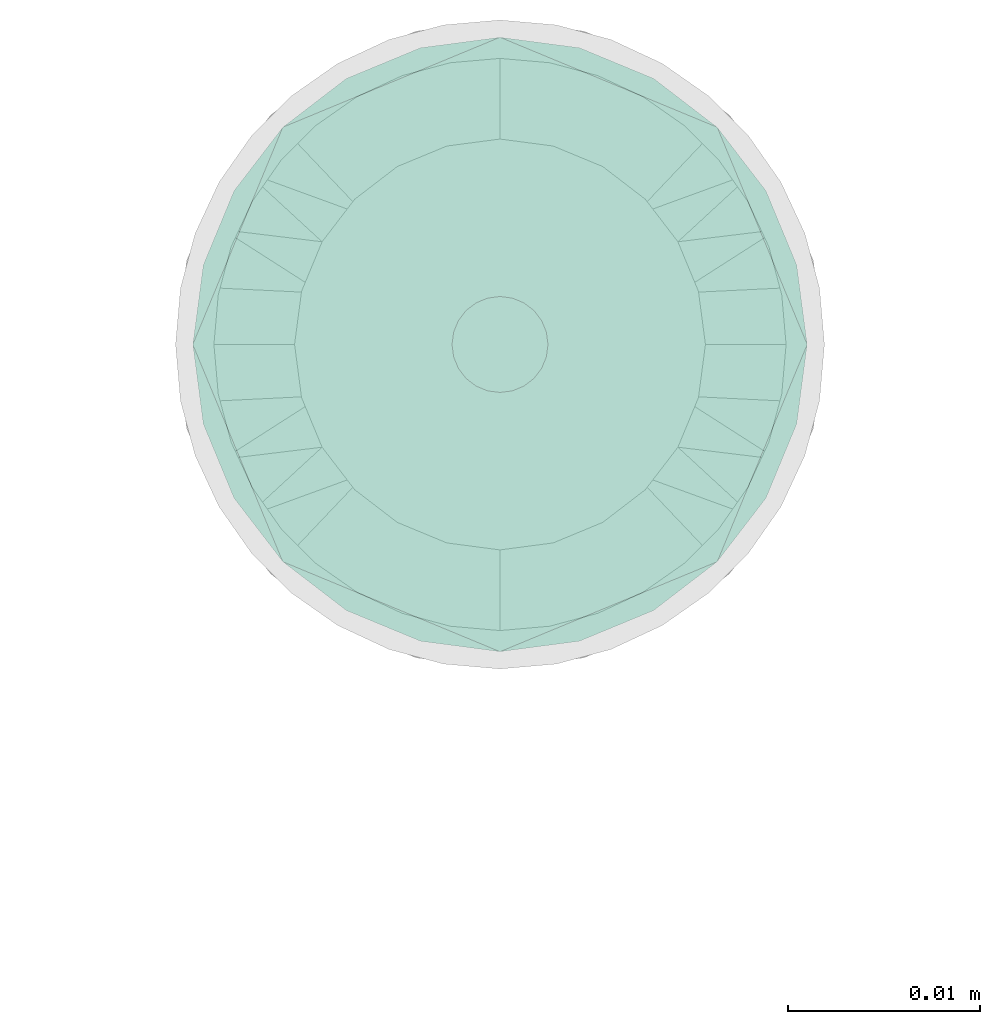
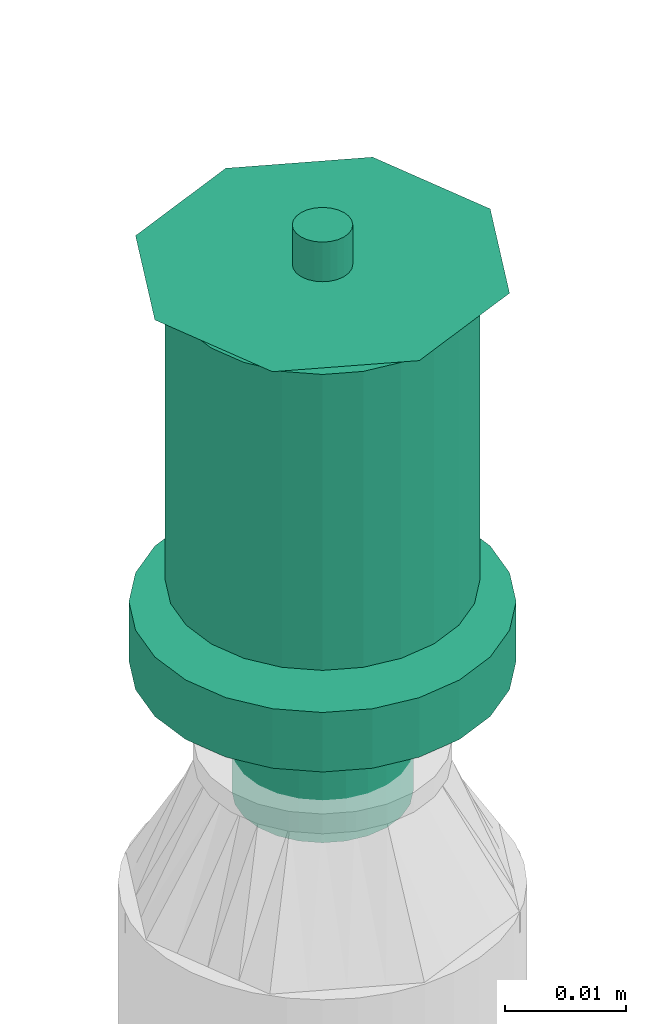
# One storey, part 32 of 44: 1 flow terminal.
"""IFC2X3 building model written with IfcOpenShell, lengths in millimetres."""

from ifc_helpers import new_model, entity, si_unit, converted_unit, derived_unit, direction, frame, origin_with_axes, place, context, subcontext, project, spatial, open_shell, surface_model, source, transform, mapped, type_object, element, save


model = new_model("IFC2X3")

# Units and contexts
model_context = context("Model", 3, precision=0.01, world=frame((0.0, 4.29681676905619e-09, 0.0)), true_north=direction((4.01073788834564e-13, 1.0)))
plan_context = context("Plan", 3, precision=0.01, world=frame((0.0, 4.29681676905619e-09, 0.0)), true_north=direction((4.01073788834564e-13, 1.0)))
body_context = subcontext(model_context, "Body", "Model", "MODEL_VIEW")
ifc_project = project(units=[converted_unit("PLANEANGLEUNIT", "DEGREE", entity("IfcPositiveLengthMeasure", 0.0174532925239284), si_unit("PLANEANGLEUNIT", "RADIAN"), dimensions=[0, 0, 0, 0, 0, 0, 0]), si_unit("AREAUNIT", "SQUARE_METRE"), si_unit("LENGTHUNIT", "METRE", prefix="MILLI"), si_unit("MASSUNIT", "GRAM", prefix="KILO"), si_unit("POWERUNIT", "WATT"), si_unit("PRESSUREUNIT", "PASCAL"), si_unit("FORCEUNIT", "NEWTON", prefix="KILO"), si_unit("ELECTRICVOLTAGEUNIT", "VOLT"), si_unit("ELECTRICCURRENTUNIT", "AMPERE"), si_unit("THERMODYNAMICTEMPERATUREUNIT", "DEGREE_CELSIUS"), si_unit("TIMEUNIT", "SECOND"), si_unit("VOLUMEUNIT", "CUBIC_METRE"), derived_unit("LINEARVELOCITYUNIT", [(si_unit("LENGTHUNIT", "METRE"), 1), (si_unit("TIMEUNIT", "SECOND"), -1)]), derived_unit("VOLUMETRICFLOWRATEUNIT", [(si_unit("VOLUMEUNIT", "CUBIC_METRE"), 1), (si_unit("TIMEUNIT", "SECOND"), -1)]), derived_unit("THERMALTRANSMITTANCEUNIT", [(si_unit("POWERUNIT", "WATT"), 1), (si_unit("THERMODYNAMICTEMPERATUREUNIT", "KELVIN"), -1), (si_unit("AREAUNIT", "SQUARE_METRE"), -1)]), derived_unit("SOUNDPRESSUREUNIT", [(si_unit("PRESSUREUNIT", "PASCAL"), 1)])], contexts=[model_context, plan_context])

# Site, building, storey
site_placement = place(None, frame((0.0, -4.29681676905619e-09, 0.0), z_axis=(0.0, 0.0, 1.0), x_axis=(1.0, 0.0, 0.0)))
site = spatial("IfcSite", under=ifc_project, at=site_placement, CompositionType="ELEMENT")
building_placement = place(site_placement, frame((0.0, 4.29681676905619e-09, 0.0), z_axis=(0.0, 0.0, 1.0), x_axis=(1.0, 0.0, 0.0)))
building = spatial("IfcBuilding", under=site, at=building_placement, Name="mc-building", CompositionType="ELEMENT")
storey_placement = place(building_placement, frame((0.0, 0.0, 207370.0), z_axis=(0.0, 0.0, 1.0), x_axis=(1.0, 0.0, 0.0)))
storey = spatial("IfcBuildingStorey", under=building, at=storey_placement, Name="Nivå E", CompositionType="ELEMENT", Elevation=207370.0)

# Flow terminal
fire_suppression_terminal_type = type_object("IfcFireSuppressionTerminalType", Name="68DGR-STD-STÅENDE", PredefinedType="NOTDEFINED")
shared_shape = source(origin_with_axes(), body_context, "Body", "SurfaceModel", [
    surface_model("IfcShellBasedSurfaceModel", [(3.36465, -12.55704, 51.0), (6.5, -11.25833, 51.0), (9.19239, -9.19239, 51.0), (12.55704, -3.36465, 51.0), (-11.25833, -6.5, 51.0), (11.25833, -6.5, 51.0), (-13.0, 0.0, 51.0), (0.0, -13.0, 51.0), (-6.5, -11.25833, 51.0), (-3.36465, -12.55704, 51.0), (-9.19239, -9.19239, 51.0), (-12.55704, -3.36465, 51.0), (13.0, 0.0, 51.0), (12.55704, 3.36465, 51.0), (11.25833, 6.5, 51.0), (9.19239, 9.19239, 51.0), (6.5, 11.25833, 51.0), (3.36465, 12.55704, 51.0), (0.0, 13.0, 51.0), (-3.36465, 12.55704, 51.0), (-12.55704, 3.36465, 51.0), (-9.19239, 9.19239, 51.0), (-11.25833, 6.5, 51.0), (-6.5, 11.25833, 51.0), (0.0, 13.0, 21.14766), (3.36465, 12.55704, 21.14766), (6.5, 11.25833, 21.14766), (-3.36465, 12.55704, 21.14766), (9.19239, 9.19239, 21.14766), (11.25833, 6.5, 21.14766), (12.55704, 3.36465, 21.14766), (-12.55704, 3.36465, 21.14766), (-11.25833, -6.5, 21.14766), (-9.19239, 9.19239, 21.14766), (-6.5, 11.25833, 21.14766), (-11.25833, 6.5, 21.14766), (-13.0, 0.0, 21.14766), (12.55704, -3.36465, 21.14766), (9.19239, -9.19239, 21.14766), (11.25833, -6.5, 21.14766), (6.5, -11.25833, 21.14766), (3.36465, -12.55704, 21.14766), (-6.5, -11.25833, 21.14766), (-9.19239, -9.19239, 21.14766), (-12.55704, -3.36465, 21.14766), (0.0, -13.0, 21.14766), (-3.36465, -12.55704, 21.14766), (13.0, 0.0, 21.14766), (7.24444, -1.94114, 0.1), (1.94114, -7.24444, 0.1), (3.75, -6.49519, 0.1), (5.3033, -5.3033, 0.1), (-5.3033, -5.3033, 0.1), (6.49519, -3.75, 0.1), (5.3033, 5.3033, 0.1), (0.0, -7.5, 0.1), (-3.75, -6.49519, 0.1), (-1.94114, -7.24444, 0.1), (-7.24444, -1.94114, 0.1), (-6.49519, -3.75, 0.1), (-7.24444, 1.94114, 0.1), (7.5, 0.0, 0.1), (6.49519, 3.75, 0.1), (-6.49519, 3.75, 0.1), (1.94114, 7.24444, 0.1), (0.0, 7.5, 0.1), (3.75, 6.49519, 0.1), (-7.5, 0.0, 0.1), (-5.3033, 5.3033, 0.1), (-1.94114, 7.24444, 0.1), (-3.75, 6.49519, 0.1), (7.24444, 1.94114, 0.1), (1.94114, 7.24444, -0.1), (-6.49519, 3.75, -0.1), (0.0, 7.5, -0.1), (5.3033, 5.3033, -0.1), (3.75, 6.49519, -0.1), (6.49519, 3.75, -0.1), (7.24444, 1.94114, -0.1), (-1.94114, 7.24444, -0.1), (-5.3033, 5.3033, -0.1), (-3.75, 6.49519, -0.1), (-7.24444, 1.94114, -0.1), (-7.24444, -1.94114, -0.1), (-7.5, 0.0, -0.1), (7.5, 0.0, -0.1), (7.24444, -1.94114, -0.1), (-5.3033, -5.3033, -0.1), (1.94114, -7.24444, -0.1), (6.49519, -3.75, -0.1), (5.3033, -5.3033, -0.1), (3.75, -6.49519, -0.1), (-6.49519, -3.75, -0.1), (-3.75, -6.49519, -0.1), (0.0, -7.5, -0.1), (-1.94114, -7.24444, -0.1), (0.0, -2.5, 51.0), (-2.5, 0.0, 51.0), (0.0, 2.5, 51.0), (2.5, 0.0, 51.0), (0.0, -16.0, 53.0), (11.31371, -11.31371, 53.0), (-11.31371, -11.31371, 53.0), (-16.0, 0.0, 53.0), (16.0, 0.0, 53.0), (11.31371, 11.31371, 53.0), (0.0, 16.0, 53.0), (-11.31371, 11.31371, 53.0), (1.25, -2.16506, 57.0), (0.0, -2.5, 57.0), (0.64705, -2.41481, 57.0), (2.41481, -0.64705, 57.0), (1.76777, -1.76777, 57.0), (-2.41481, -0.64705, 57.0), (-2.5, 0.0, 57.0), (2.16506, -1.25, 57.0), (-1.25, -2.16506, 57.0), (-0.64705, -2.41481, 57.0), (-1.76777, -1.76777, 57.0), (-2.16506, -1.25, 57.0), (2.5, 0.0, 57.0), (2.41481, 0.64705, 57.0), (2.16506, 1.25, 57.0), (1.76777, 1.76777, 57.0), (0.64705, 2.41481, 57.0), (1.25, 2.16506, 57.0), (-1.76777, 1.76777, 57.0), (0.0, 2.5, 57.0), (-2.16506, 1.25, 57.0), (-2.41481, 0.64705, 57.0), (-0.64705, 2.41481, 57.0), (-1.25, 2.16506, 57.0), (1.25, 2.16506, 51.0), (1.76777, 1.76777, 51.0), (1.15, 1.99186, 51.0), (0.59528, 2.22163, 51.0), (0.64705, 2.41481, 51.0), (0.0, 2.3, 51.0), (1.62635, 1.62635, 51.0), (2.41481, 0.64705, 51.0), (2.3, 0.0, 51.0), (2.22163, 0.59528, 51.0), (2.16506, 1.25, 51.0), (1.99186, 1.15, 51.0), (-0.59528, 2.22163, 51.0), (-0.64705, 2.41481, 51.0), (-1.15, 1.99186, 51.0), (-1.76777, 1.76777, 51.0), (-1.25, 2.16506, 51.0), (-1.62635, 1.62635, 51.0), (-1.99186, 1.15, 51.0), (-2.16506, 1.25, 51.0), (-2.22163, 0.59528, 51.0), (-2.41481, 0.64705, 51.0), (-2.3, 0.0, 51.0), (2.41481, -0.64705, 51.0), (2.22163, -0.59528, 51.0), (1.99186, -1.15, 51.0), (2.16506, -1.25, 51.0), (1.62635, -1.62635, 51.0), (1.76777, -1.76777, 51.0), (1.25, -2.16506, 51.0), (1.15, -1.99186, 51.0), (0.59528, -2.22163, 51.0), (0.64705, -2.41481, 51.0), (0.0, -2.3, 51.0), (-2.16506, -1.25, 51.0), (-1.99186, -1.15, 51.0), (-1.76777, -1.76777, 51.0), (-1.62635, -1.62635, 51.0), (-2.41481, -0.64705, 51.0), (-2.22163, -0.59528, 51.0), (-0.59528, -2.22163, 51.0), (-0.64705, -2.41481, 51.0), (-1.15, -1.99186, 51.0), (-1.25, -2.16506, 51.0), (1.62635, -1.62635, 56.8), (1.15, -1.99186, 56.8), (0.59528, -2.22163, 56.8), (0.0, -2.3, 56.8), (2.22163, 0.59528, 56.8), (1.99186, -1.15, 56.8), (2.22163, -0.59528, 56.8), (-0.59528, -2.22163, 56.8), (-1.15, -1.99186, 56.8), (-1.62635, -1.62635, 56.8), (-1.99186, -1.15, 56.8), (-2.22163, -0.59528, 56.8), (-1.99186, 1.15, 56.8), (2.3, 0.0, 56.8), (1.62635, 1.62635, 56.8), (1.99186, 1.15, 56.8), (1.15, 1.99186, 56.8), (0.0, 2.3, 56.8), (0.59528, 2.22163, 56.8), (-2.22163, 0.59528, 56.8), (-2.3, 0.0, 56.8), (-1.15, 1.99186, 56.8), (-0.59528, 2.22163, 56.8), (-1.62635, 1.62635, 56.8), (4.1411, -15.45481, 19.0), (8.0, -13.85641, 19.0), (11.31371, -11.31371, 19.0), (-8.0, -13.85641, 19.0), (15.45481, -4.1411, 19.0), (16.0, 0.0, 19.0), (13.85641, -8.0, 19.0), (0.0, -16.0, 19.0), (-4.1411, -15.45481, 19.0), (-13.85641, -8.0, 19.0), (-11.31371, -11.31371, 19.0), (-15.45481, -4.1411, 19.0), (15.45481, 4.1411, 19.0), (13.85641, 8.0, 19.0), (11.31371, 11.31371, 19.0), (-4.1411, 15.45481, 19.0), (8.0, 13.85641, 19.0), (4.1411, 15.45481, 19.0), (0.0, 16.0, 19.0), (-13.85641, 8.0, 19.0), (-15.45481, 4.1411, 19.0), (-16.0, 0.0, 19.0), (-11.31371, 11.31371, 19.0), (-8.0, 13.85641, 19.0), (0.0, 16.0, 13.0), (4.1411, 15.45481, 13.0), (8.0, 13.85641, 13.0), (-4.1411, 15.45481, 13.0), (11.31371, 11.31371, 13.0), (13.85641, 8.0, 13.0), (15.45481, 4.1411, 13.0), (-15.45481, -4.1411, 13.0), (-11.31371, 11.31371, 13.0), (-8.0, 13.85641, 13.0), (-13.85641, 8.0, 13.0), (-15.45481, 4.1411, 13.0), (-16.0, 0.0, 13.0), (4.1411, -15.45481, 13.0), (16.0, 0.0, 13.0), (15.45481, -4.1411, 13.0), (13.85641, -8.0, 13.0), (11.31371, -11.31371, 13.0), (8.0, -13.85641, 13.0), (-8.0, -13.85641, 13.0), (-13.85641, -8.0, 13.0), (-11.31371, -11.31371, 13.0), (0.0, -16.0, 13.0), (-4.1411, -15.45481, 13.0), (7.24444, -1.94114, 13.0), (1.94114, -7.24444, 13.0), (3.75, -6.49519, 13.0), (5.3033, -5.3033, 13.0), (-5.3033, -5.3033, 13.0), (6.49519, -3.75, 13.0), (5.3033, 5.3033, 13.0), (0.0, -7.5, 13.0), (-3.75, -6.49519, 13.0), (-1.94114, -7.24444, 13.0), (-7.24444, -1.94114, 13.0), (-6.49519, -3.75, 13.0), (-7.24444, 1.94114, 13.0), (7.5, 0.0, 13.0), (6.49519, 3.75, 13.0), (-6.49519, 3.75, 13.0), (1.94114, 7.24444, 13.0), (0.0, 7.5, 13.0), (3.75, 6.49519, 13.0), (-7.5, 0.0, 13.0), (-5.3033, 5.3033, 13.0), (-1.94114, 7.24444, 13.0), (-3.75, 6.49519, 13.0), (7.24444, 1.94114, 13.0), (3.75, 6.49519, 0.0), (5.3033, 5.3033, 0.0), (3.65, 6.32199, 0.0), (1.88938, 7.05126, 0.0), (0.0, 7.3, 0.0), (1.94114, 7.24444, 0.0), (0.0, 7.5, 0.0), (5.16188, 5.16188, 0.0), (7.24444, 1.94114, 0.0), (7.3, 0.0, 0.0), (7.05126, 1.88938, 0.0), (7.5, 0.0, 0.0), (6.49519, 3.75, 0.0), (6.32199, 3.65, 0.0), (-1.88938, 7.05126, 0.0), (-1.94114, 7.24444, 0.0), (-3.65, 6.32199, 0.0), (-5.3033, 5.3033, 0.0), (-3.75, 6.49519, 0.0), (-5.16188, 5.16188, 0.0), (-6.32199, 3.65, 0.0), (-6.49519, 3.75, 0.0), (-7.05126, 1.88938, 0.0), (-7.24444, 1.94114, 0.0), (-7.3, 0.0, 0.0), (-7.5, 0.0, 0.0), (7.24444, -1.94114, 0.0), (7.05126, -1.88938, 0.0), (6.32199, -3.65, 0.0), (6.49519, -3.75, 0.0), (5.16188, -5.16188, 0.0), (5.3033, -5.3033, 0.0), (3.75, -6.49519, 0.0), (3.65, -6.32199, 0.0), (1.88938, -7.05126, 0.0), (1.94114, -7.24444, 0.0), (0.0, -7.3, 0.0), (0.0, -7.5, 0.0), (-6.49519, -3.75, 0.0), (-6.32199, -3.65, 0.0), (-5.3033, -5.3033, 0.0), (-5.16188, -5.16188, 0.0), (-7.24444, -1.94114, 0.0), (-7.05126, -1.88938, 0.0), (-1.88938, -7.05126, 0.0), (-1.94114, -7.24444, 0.0), (-3.65, -6.32199, 0.0), (-3.75, -6.49519, 0.0), (1.88938, -7.05126, 12.8), (0.0, -7.3, 12.8), (3.65, -6.32199, 12.8), (5.16188, -5.16188, 12.8), (6.32199, -3.65, 12.8), (7.05126, 1.88938, 12.8), (7.05126, -1.88938, 12.8), (-5.16188, -5.16188, 12.8), (-1.88938, -7.05126, 12.8), (-3.65, -6.32199, 12.8), (-6.32199, -3.65, 12.8), (-7.05126, -1.88938, 12.8), (0.0, 7.3, 12.8), (7.3, 0.0, 12.8), (6.32199, 3.65, 12.8), (5.16188, 5.16188, 12.8), (3.65, 6.32199, 12.8), (1.88938, 7.05126, 12.8), (-6.32199, 3.65, 12.8), (-7.05126, 1.88938, 12.8), (-7.3, 0.0, 12.8), (-3.65, 6.32199, 12.8), (-1.88938, 7.05126, 12.8), (-5.16188, 5.16188, 12.8)], [open_shell([[[0, 1, 2]], [[0, 2, 3]], [[0, 3, 4]], [[3, 2, 5]], [[6, 4, 3]], [[7, 8, 9]], [[7, 0, 8]], [[8, 4, 10]], [[0, 4, 8]], [[4, 6, 11]], [[6, 3, 12]], [[13, 14, 15]], [[6, 13, 15]], [[16, 17, 18]], [[15, 16, 19]], [[18, 19, 16]], [[20, 21, 22]], [[20, 6, 15]], [[21, 19, 23]], [[19, 21, 20]], [[15, 19, 20]], [[13, 6, 12]], [[24, 25, 26]], [[27, 24, 26]], [[28, 29, 30]], [[26, 28, 31]], [[28, 32, 31]], [[27, 33, 34]], [[33, 27, 31]], [[33, 31, 35]], [[27, 26, 31]], [[31, 32, 36]], [[32, 28, 30]], [[32, 30, 37]], [[38, 37, 39]], [[38, 40, 41]], [[38, 41, 37]], [[32, 37, 41]], [[32, 42, 43]], [[44, 36, 32]], [[42, 45, 46]], [[42, 32, 41]], [[45, 42, 41]], [[30, 47, 37]], [[4, 32, 43]], [[8, 42, 46]], [[43, 42, 10]], [[9, 46, 45]], [[36, 11, 6]], [[11, 36, 44]], [[11, 44, 4]], [[44, 32, 4]], [[43, 10, 4]], [[8, 10, 42]], [[46, 9, 8]], [[45, 7, 9]], [[0, 41, 40]], [[38, 1, 40]], [[5, 39, 37]], [[38, 39, 2]], [[3, 37, 47]], [[41, 0, 7]], [[40, 1, 0]], [[38, 2, 1]], [[39, 5, 2]], [[3, 5, 37]], [[47, 12, 3]], [[41, 7, 45]], [[30, 13, 47]], [[29, 14, 30]], [[25, 24, 17]], [[15, 29, 28]], [[30, 14, 13]], [[13, 12, 47]], [[16, 26, 17]], [[16, 15, 28]], [[26, 25, 17]], [[15, 14, 29]], [[28, 26, 16]], [[24, 18, 17]], [[19, 27, 34]], [[33, 23, 34]], [[22, 35, 31]], [[33, 35, 21]], [[20, 31, 36]], [[27, 19, 18]], [[34, 23, 19]], [[33, 21, 23]], [[35, 22, 21]], [[20, 22, 31]], [[36, 6, 20]], [[27, 18, 24]], [[48, 49, 50]], [[48, 50, 51]], [[49, 48, 52]], [[48, 51, 53]], [[54, 52, 48]], [[55, 56, 57]], [[56, 55, 52]], [[52, 58, 59]], [[52, 55, 49]], [[52, 60, 58]], [[54, 48, 61]], [[62, 54, 61]], [[54, 63, 52]], [[64, 65, 54]], [[64, 54, 66]], [[63, 54, 65]], [[63, 60, 52]], [[67, 58, 60]], [[68, 69, 70]], [[69, 68, 63]], [[69, 63, 65]], [[71, 62, 61]], [[72, 73, 74]], [[75, 72, 76]], [[75, 77, 78]], [[72, 75, 73]], [[78, 73, 75]], [[79, 80, 81]], [[80, 79, 73]], [[74, 73, 79]], [[78, 82, 73]], [[82, 83, 84]], [[82, 78, 85]], [[86, 87, 85]], [[88, 86, 89]], [[90, 91, 88]], [[90, 88, 89]], [[87, 86, 88]], [[83, 87, 92]], [[83, 85, 87]], [[93, 94, 95]], [[94, 93, 87]], [[88, 94, 87]], [[85, 83, 82]], [[83, 58, 84]], [[92, 59, 83]], [[56, 87, 93]], [[92, 87, 52]], [[57, 93, 95]], [[83, 59, 58]], [[58, 67, 84]], [[57, 56, 93]], [[52, 87, 56]], [[52, 59, 92]], [[55, 57, 95]], [[95, 94, 55]], [[88, 49, 94]], [[91, 50, 88]], [[53, 90, 89]], [[91, 90, 51]], [[48, 89, 86]], [[91, 51, 50]], [[50, 49, 88]], [[61, 48, 86]], [[53, 89, 48]], [[53, 51, 90]], [[85, 61, 86]], [[94, 49, 55]], [[78, 71, 85]], [[77, 62, 78]], [[66, 75, 76]], [[77, 75, 54]], [[64, 76, 72]], [[78, 62, 71]], [[71, 61, 85]], [[64, 66, 76]], [[54, 75, 66]], [[54, 62, 77]], [[65, 64, 72]], [[72, 74, 65]], [[79, 69, 74]], [[81, 70, 79]], [[63, 80, 73]], [[81, 80, 68]], [[60, 73, 82]], [[81, 68, 70]], [[70, 69, 79]], [[67, 60, 82]], [[63, 73, 60]], [[63, 68, 80]], [[84, 67, 82]], [[74, 69, 65]], [[96, 97, 98]], [[98, 99, 96]], [[100, 101, 102]], [[103, 102, 101]], [[101, 104, 103]], [[104, 105, 106]], [[107, 103, 106]], [[106, 103, 104]], [[99, 98, 105]], [[105, 104, 99]], [[98, 106, 105]], [[98, 107, 106]], [[107, 98, 97]], [[103, 107, 97]], [[97, 96, 102]], [[102, 103, 97]], [[96, 100, 102]], [[96, 101, 100]], [[101, 96, 99]], [[104, 101, 99]], [[108, 109, 110]], [[111, 108, 112]], [[113, 108, 114]], [[111, 112, 115]], [[108, 111, 114]], [[109, 116, 117]], [[116, 109, 118]], [[118, 113, 119]], [[118, 109, 108]], [[108, 113, 118]], [[111, 120, 114]], [[121, 122, 123]], [[114, 121, 123]], [[114, 123, 124]], [[124, 123, 125]], [[126, 124, 127]], [[124, 128, 129]], [[129, 114, 124]], [[126, 130, 131]], [[128, 124, 126]], [[130, 126, 127]], [[121, 114, 120]], [[132, 133, 134]], [[132, 134, 135]], [[136, 135, 137]], [[135, 136, 132]], [[136, 137, 98]], [[134, 133, 138]], [[139, 140, 141]], [[140, 139, 99]], [[139, 141, 142]], [[138, 142, 143]], [[142, 138, 133]], [[143, 142, 141]], [[98, 144, 145]], [[98, 137, 144]], [[145, 144, 146]], [[147, 148, 149]], [[146, 148, 145]], [[149, 148, 146]], [[150, 151, 147]], [[151, 150, 152]], [[150, 147, 149]], [[153, 152, 154]], [[152, 153, 151]], [[153, 154, 97]], [[99, 155, 156]], [[156, 155, 157]], [[157, 158, 159]], [[158, 157, 155]], [[159, 158, 160]], [[160, 161, 162]], [[162, 161, 163]], [[163, 164, 165]], [[164, 163, 161]], [[165, 164, 96]], [[162, 159, 160]], [[166, 167, 168]], [[168, 167, 169]], [[167, 166, 170]], [[97, 171, 170]], [[170, 171, 167]], [[97, 154, 171]], [[172, 96, 173]], [[172, 173, 174]], [[169, 175, 168]], [[175, 169, 174]], [[175, 174, 173]], [[165, 96, 172]], [[156, 140, 99]], [[170, 113, 97]], [[166, 119, 170]], [[116, 168, 175]], [[166, 168, 118]], [[117, 175, 173]], [[170, 119, 113]], [[113, 114, 97]], [[117, 116, 175]], [[118, 168, 116]], [[118, 119, 166]], [[109, 117, 173]], [[173, 96, 109]], [[164, 110, 96]], [[161, 108, 164]], [[115, 160, 158]], [[161, 160, 112]], [[111, 158, 155]], [[161, 112, 108]], [[108, 110, 164]], [[120, 111, 155]], [[115, 158, 111]], [[115, 112, 160]], [[99, 120, 155]], [[96, 110, 109]], [[139, 121, 99]], [[142, 122, 139]], [[125, 133, 132]], [[142, 133, 123]], [[124, 132, 136]], [[139, 122, 121]], [[121, 120, 99]], [[124, 125, 132]], [[123, 133, 125]], [[123, 122, 142]], [[127, 124, 136]], [[136, 98, 127]], [[145, 130, 98]], [[148, 131, 145]], [[128, 147, 151]], [[148, 147, 126]], [[129, 151, 153]], [[148, 126, 131]], [[131, 130, 145]], [[114, 129, 153]], [[128, 151, 129]], [[128, 126, 147]], [[97, 114, 153]], [[98, 130, 127]], [[176, 177, 178]], [[176, 178, 179]], [[180, 176, 179]], [[181, 176, 182]], [[180, 182, 176]], [[183, 184, 179]], [[185, 179, 184]], [[186, 187, 185]], [[185, 187, 188]], [[179, 185, 188]], [[189, 182, 180]], [[190, 191, 180]], [[192, 190, 180]], [[193, 194, 192]], [[180, 193, 192]], [[188, 193, 180]], [[195, 188, 196]], [[196, 188, 187]], [[197, 198, 199]], [[188, 199, 198]], [[188, 198, 193]], [[180, 179, 188]], [[154, 187, 171]], [[171, 186, 167]], [[174, 169, 184]], [[185, 169, 167]], [[172, 174, 183]], [[187, 186, 171]], [[154, 196, 187]], [[174, 184, 183]], [[184, 169, 185]], [[167, 186, 185]], [[172, 183, 179]], [[179, 165, 172]], [[165, 178, 163]], [[163, 177, 162]], [[157, 159, 181]], [[176, 159, 162]], [[156, 157, 182]], [[177, 176, 162]], [[163, 178, 177]], [[156, 182, 189]], [[182, 157, 181]], [[159, 176, 181]], [[156, 189, 140]], [[179, 178, 165]], [[140, 180, 141]], [[141, 191, 143]], [[134, 138, 192]], [[190, 138, 143]], [[135, 134, 194]], [[180, 191, 141]], [[140, 189, 180]], [[134, 192, 194]], [[192, 138, 190]], [[143, 191, 190]], [[135, 194, 193]], [[193, 137, 135]], [[137, 198, 144]], [[144, 197, 146]], [[150, 149, 188]], [[199, 149, 146]], [[152, 150, 195]], [[197, 199, 146]], [[144, 198, 197]], [[152, 195, 196]], [[195, 150, 188]], [[149, 199, 188]], [[152, 196, 154]], [[193, 198, 137]], [[200, 201, 202]], [[203, 200, 202]], [[204, 205, 202]], [[204, 202, 206]], [[203, 202, 205]], [[207, 203, 208]], [[207, 200, 203]], [[203, 209, 210]], [[209, 203, 211]], [[205, 211, 203]], [[205, 212, 211]], [[212, 213, 214]], [[215, 212, 214]], [[216, 217, 218]], [[214, 216, 215]], [[218, 215, 216]], [[211, 219, 220]], [[221, 211, 220]], [[222, 215, 223]], [[215, 222, 219]], [[219, 211, 215]], [[211, 212, 215]], [[224, 225, 226]], [[227, 224, 226]], [[228, 229, 230]], [[227, 226, 228]], [[227, 228, 231]], [[227, 232, 233]], [[232, 227, 234]], [[234, 231, 235]], [[231, 234, 227]], [[235, 231, 236]], [[228, 230, 231]], [[237, 238, 239]], [[237, 239, 240]], [[241, 242, 237]], [[241, 237, 240]], [[238, 237, 243]], [[244, 243, 245]], [[243, 244, 231]], [[243, 246, 247]], [[243, 231, 238]], [[237, 246, 243]], [[238, 231, 230]], [[231, 211, 236]], [[244, 209, 231]], [[203, 245, 243]], [[244, 245, 210]], [[208, 243, 247]], [[231, 209, 211]], [[211, 221, 236]], [[208, 203, 243]], [[210, 245, 203]], [[210, 209, 244]], [[207, 208, 247]], [[247, 246, 207]], [[237, 200, 246]], [[242, 201, 237]], [[206, 241, 240]], [[242, 241, 202]], [[204, 240, 239]], [[242, 202, 201]], [[201, 200, 237]], [[205, 204, 239]], [[206, 240, 204]], [[206, 202, 241]], [[238, 205, 239]], [[246, 200, 207]], [[230, 212, 238]], [[229, 213, 230]], [[216, 228, 226]], [[229, 228, 214]], [[217, 226, 225]], [[230, 213, 212]], [[212, 205, 238]], [[217, 216, 226]], [[214, 228, 216]], [[214, 213, 229]], [[218, 217, 225]], [[225, 224, 218]], [[227, 215, 224]], [[233, 223, 227]], [[219, 232, 234]], [[233, 232, 222]], [[220, 234, 235]], [[233, 222, 223]], [[223, 215, 227]], [[221, 220, 235]], [[219, 234, 220]], [[219, 222, 232]], [[236, 221, 235]], [[224, 215, 218]], [[248, 249, 250]], [[248, 250, 251]], [[249, 248, 252]], [[248, 251, 253]], [[254, 252, 248]], [[255, 256, 257]], [[256, 255, 252]], [[252, 258, 259]], [[252, 255, 249]], [[252, 260, 258]], [[254, 248, 261]], [[262, 254, 261]], [[254, 263, 252]], [[264, 265, 254]], [[264, 254, 266]], [[263, 254, 265]], [[263, 260, 252]], [[267, 258, 260]], [[268, 269, 270]], [[269, 268, 263]], [[269, 263, 265]], [[271, 262, 261]], [[272, 273, 274]], [[272, 274, 275]], [[276, 277, 275]], [[277, 276, 278]], [[275, 277, 272]], [[274, 273, 279]], [[280, 281, 282]], [[281, 280, 283]], [[280, 282, 284]], [[279, 284, 285]], [[284, 279, 273]], [[285, 284, 282]], [[278, 286, 287]], [[287, 286, 288]], [[289, 290, 291]], [[288, 290, 287]], [[288, 291, 290]], [[278, 276, 286]], [[292, 293, 289]], [[293, 292, 294]], [[292, 289, 291]], [[295, 294, 296]], [[294, 295, 293]], [[295, 296, 297]], [[283, 298, 299]], [[299, 298, 300]], [[300, 301, 302]], [[301, 300, 298]], [[302, 301, 303]], [[303, 304, 305]], [[305, 304, 306]], [[306, 307, 308]], [[307, 306, 304]], [[308, 307, 309]], [[305, 302, 303]], [[310, 311, 312]], [[312, 311, 313]], [[311, 310, 314]], [[297, 315, 314]], [[314, 315, 311]], [[297, 296, 315]], [[316, 309, 317]], [[316, 317, 318]], [[313, 319, 312]], [[313, 318, 319]], [[319, 318, 317]], [[308, 309, 316]], [[299, 281, 283]], [[314, 258, 297]], [[310, 259, 314]], [[256, 312, 319]], [[310, 312, 252]], [[257, 319, 317]], [[314, 259, 258]], [[258, 267, 297]], [[257, 256, 319]], [[252, 312, 256]], [[252, 259, 310]], [[255, 257, 317]], [[317, 309, 255]], [[307, 249, 309]], [[304, 250, 307]], [[253, 303, 301]], [[304, 303, 251]], [[248, 301, 298]], [[304, 251, 250]], [[250, 249, 307]], [[261, 248, 298]], [[253, 301, 248]], [[253, 251, 303]], [[283, 261, 298]], [[309, 249, 255]], [[280, 271, 283]], [[284, 262, 280]], [[266, 273, 272]], [[284, 273, 254]], [[264, 272, 277]], [[280, 262, 271]], [[271, 261, 283]], [[264, 266, 272]], [[254, 273, 266]], [[254, 262, 284]], [[265, 264, 277]], [[277, 278, 265]], [[287, 269, 278]], [[290, 270, 287]], [[263, 289, 293]], [[290, 289, 268]], [[260, 293, 295]], [[290, 268, 270]], [[270, 269, 287]], [[267, 260, 295]], [[263, 293, 260]], [[263, 268, 289]], [[297, 267, 295]], [[278, 269, 265]], [[320, 321, 322]], [[323, 322, 324]], [[325, 326, 322]], [[324, 322, 326]], [[322, 327, 325]], [[328, 329, 321]], [[327, 321, 329]], [[330, 331, 327]], [[322, 321, 327]], [[331, 332, 327]], [[326, 325, 333]], [[334, 325, 332]], [[335, 334, 336]], [[332, 337, 336]], [[334, 332, 336]], [[331, 338, 332]], [[339, 338, 340]], [[340, 338, 331]], [[341, 342, 343]], [[332, 338, 343]], [[332, 343, 342]], [[332, 325, 327]], [[296, 331, 315]], [[315, 330, 311]], [[318, 313, 329]], [[327, 313, 311]], [[316, 318, 328]], [[331, 330, 315]], [[296, 340, 331]], [[318, 329, 328]], [[329, 313, 327]], [[311, 330, 327]], [[316, 328, 321]], [[321, 308, 316]], [[308, 320, 306]], [[306, 322, 305]], [[300, 302, 324]], [[323, 302, 305]], [[299, 300, 326]], [[322, 323, 305]], [[306, 320, 322]], [[299, 326, 333]], [[326, 300, 324]], [[302, 323, 324]], [[299, 333, 281]], [[321, 320, 308]], [[281, 325, 282]], [[282, 334, 285]], [[274, 279, 336]], [[335, 279, 285]], [[275, 274, 337]], [[325, 334, 282]], [[281, 333, 325]], [[274, 336, 337]], [[336, 279, 335]], [[285, 334, 335]], [[275, 337, 332]], [[332, 276, 275]], [[276, 342, 286]], [[286, 341, 288]], [[292, 291, 338]], [[343, 291, 288]], [[294, 292, 339]], [[341, 343, 288]], [[286, 342, 341]], [[294, 339, 340]], [[339, 292, 338]], [[291, 343, 338]], [[294, 340, 296]], [[332, 342, 276]]])]),
])
flow_terminal_placement = place(storey_placement, frame((530500.0, 459009.83177, 3036.95754999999), z_axis=(0.0, 0.0, 1.0), x_axis=(1.0, 0.0, 0.0)))
element("IfcFlowTerminal", 1, at=flow_terminal_placement, inside=storey, type_object=fire_suppression_terminal_type, Name="68DGR-STD-STÅENDE", context=body_context, shape_type="MappedRepresentation", body=[
    mapped(shared_shape, transform((0.0, 0.0, 0.0), scale=1.0)),
])

save(model, "model.ifc")
